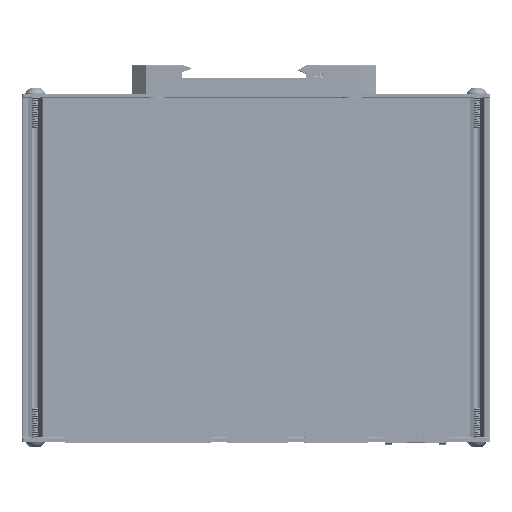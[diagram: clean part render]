
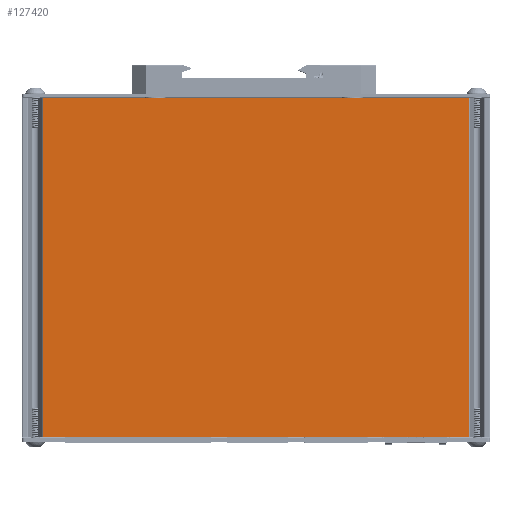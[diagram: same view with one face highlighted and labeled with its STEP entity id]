
A CAD part, front view. The second image highlights one B-rep face of the part: STEP entity #127420.
In plain terms, the highlighted planar face has unit normal (0, -1, 0).
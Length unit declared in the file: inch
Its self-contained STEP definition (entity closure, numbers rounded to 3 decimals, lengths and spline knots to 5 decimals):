
#998 = VECTOR ( 'NONE', #132289, 39.37008 ) ;
#2052 = VERTEX_POINT ( 'NONE', #203143 ) ;
#2207 = VECTOR ( 'NONE', #79187, 39.37008 ) ;
#13472 = VERTEX_POINT ( 'NONE', #193063 ) ;
#19636 = DIRECTION ( 'NONE',  ( 0., 1., 0. ) ) ;
#20833 = CARTESIAN_POINT ( 'NONE',  ( -2.3344, 0., -1.865 ) ) ;
#39613 = LINE ( 'NONE', #47328, #998 ) ;
#47328 = CARTESIAN_POINT ( 'NONE',  ( -2.3344, 0., 1.865 ) ) ;
#54561 = ORIENTED_EDGE ( 'NONE', *, *, #208286, .F. ) ;
#70626 = EDGE_CURVE ( 'NONE', #13472, #74491, #170815, .T. ) ;
#72187 = CARTESIAN_POINT ( 'NONE',  ( -2.3344, 0., 1.865 ) ) ;
#73028 = VECTOR ( 'NONE', #159092, 39.37008 ) ;
#74491 = VERTEX_POINT ( 'NONE', #183564 ) ;
#79187 = DIRECTION ( 'NONE',  ( 0., 0., -1. ) ) ;
#80979 = CARTESIAN_POINT ( 'NONE',  ( -2.3344, 0., 1.865 ) ) ;
#93267 = AXIS2_PLACEMENT_3D ( 'NONE', #72187, #19636, #194928 ) ;
#119838 = LINE ( 'NONE', #20833, #73028 ) ;
#119984 = PLANE ( 'NONE',  #93267 ) ;
#125205 = FACE_OUTER_BOUND ( 'NONE', #200103, .T. ) ;
#127420 = ADVANCED_FACE ( 'NONE', ( #125205 ), #119984, .F. ) ;
#132289 = DIRECTION ( 'NONE',  ( 1., 0., 0. ) ) ;
#132887 = VERTEX_POINT ( 'NONE', #80979 ) ;
#140539 = CARTESIAN_POINT ( 'NONE',  ( -2.3344, 0., 1.865 ) ) ;
#151956 = ORIENTED_EDGE ( 'NONE', *, *, #70626, .F. ) ;
#157540 = DIRECTION ( 'NONE',  ( 0., 0., -1. ) ) ;
#159092 = DIRECTION ( 'NONE',  ( 1., 0., 0. ) ) ;
#159869 = ORIENTED_EDGE ( 'NONE', *, *, #206465, .T. ) ;
#166453 = CARTESIAN_POINT ( 'NONE',  ( 2.3344, 0., 1.865 ) ) ;
#167765 = VECTOR ( 'NONE', #157540, 39.37008 ) ;
#170815 = LINE ( 'NONE', #166453, #2207 ) ;
#173301 = LINE ( 'NONE', #140539, #167765 ) ;
#183564 = CARTESIAN_POINT ( 'NONE',  ( 2.3344, 0., -1.865 ) ) ;
#193063 = CARTESIAN_POINT ( 'NONE',  ( 2.3344, 0., 1.865 ) ) ;
#194928 = DIRECTION ( 'NONE',  ( 0., 0., 1. ) ) ;
#200103 = EDGE_LOOP ( 'NONE', ( #159869, #151956, #54561, #205096 ) ) ;
#203143 = CARTESIAN_POINT ( 'NONE',  ( -2.3344, 0., -1.865 ) ) ;
#205096 = ORIENTED_EDGE ( 'NONE', *, *, #215430, .T. ) ;
#206465 = EDGE_CURVE ( 'NONE', #2052, #74491, #119838, .T. ) ;
#208286 = EDGE_CURVE ( 'NONE', #132887, #13472, #39613, .T. ) ;
#215430 = EDGE_CURVE ( 'NONE', #132887, #2052, #173301, .T. ) ;
